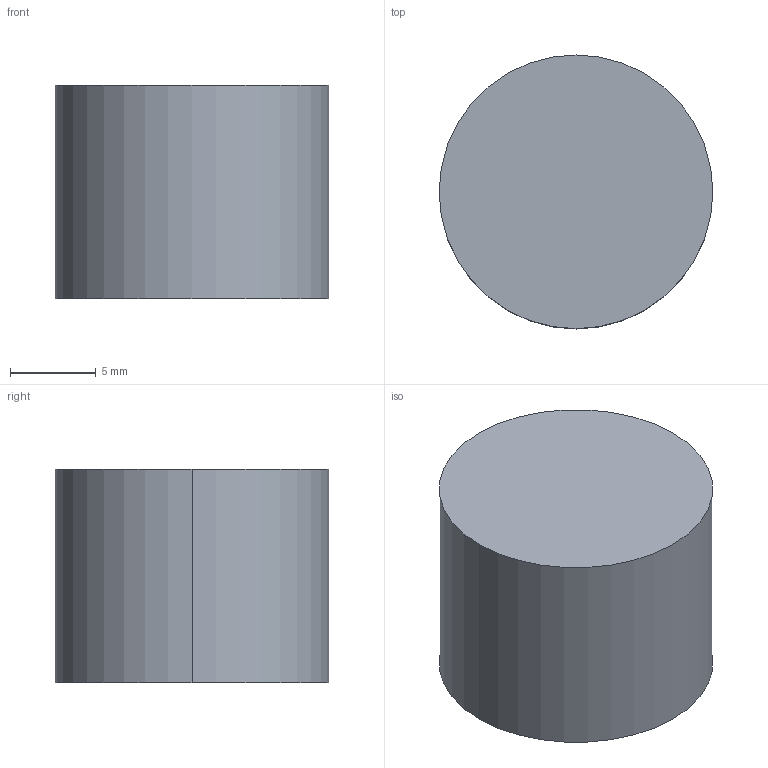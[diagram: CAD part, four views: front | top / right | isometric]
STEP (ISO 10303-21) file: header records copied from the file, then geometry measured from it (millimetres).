
FILE_DESCRIPTION((''),'2;1');
FILE_NAME('TX16_R1','2026-10-06T14:54:10',('line0'),(''),'CREO PARAMETRIC BY PTC INC, 2024344','CREO PARAMETRIC BY PTC INC, 2024344','');
FILE_SCHEMA(('AUTOMOTIVE_DESIGN { 1 0 10303 214 1 1 1 1 }'));
Length unit declared in the file: millimetre
Products named in the file (1): TX16_R1
Bounding box: 16 x 16 x 12.5 mm (x, y, z)
Volume: 2513.3 mm3; surface area: 1030.4 mm2
Topology: 1 solids, 1 shells, 4 faces, 6 edges, 4 vertices
Faces by surface type: cylinder 2, plane 2
Entity records: 276 total; most frequent: DIRECTION 35, CARTESIAN_POINT 27, AXIS2_PLACEMENT_3D 15, ORIENTED_EDGE 12, PROPERTY_DEFINITION 12, COLOUR_RGB 11, REPRESENTATION 11, PROPERTY_DEFINITION_REPRESENTATION 11
